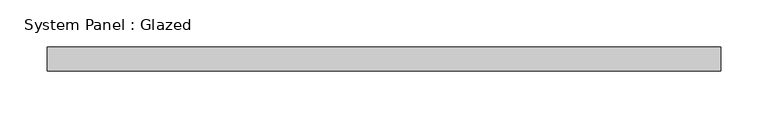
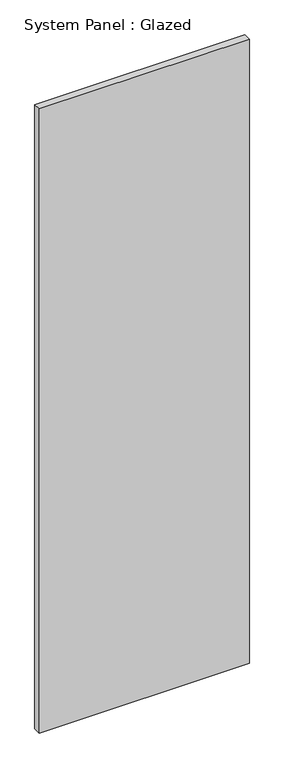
"""IFC4 building model written with IfcOpenShell, lengths in millimetres: plate geometry, System Panel : Glazed."""

import ifcopenshell
import ifcopenshell.guid

model = None  # the IFC model being written
_history = None  # IfcOwnerHistory: only IFC2X3 demands one
_inside = {}  # id of a spatial element -> (the spatial element, [elements in it])
_under = {}  # id of a project, library or spatial element -> (it, [spatial elements below it])
_declared = {}  # id of a project -> (the project, [libraries it declares])
_typed = {}  # id of a type object -> (the type object, [elements of that type])
_made_of = {}  # id of a material, layer set ... -> (it, [elements and type objects made of it])


def new_model(schema):
    """Start an empty IFC model of exactly this schema.

    Asked for "IFC4X3", IfcOpenShell would pick the latest addendum, in which some entities
    have other attributes; the version numbers below select the first issue.
    IFC2X3 requires an IfcOwnerHistory on every rooted entity: one is made here for all.
    """
    global model, _history
    if schema == "IFC4X3":
        model = ifcopenshell.file(schema_version=(4, 3, 0, 0))
    else:
        model = ifcopenshell.file(schema=schema)
    _inside.clear()
    _under.clear()
    _declared.clear()
    _typed.clear()
    _made_of.clear()
    _history = None
    if model.schema == "IFC2X3":
        org = make("IfcOrganization", Name="unknown")
        user = make(
            "IfcPersonAndOrganization",
            ThePerson=make("IfcPerson", FamilyName="unknown"),
            TheOrganization=org,
        )
        app = make(
            "IfcApplication",
            ApplicationDeveloper=org,
            Version="unknown",
            ApplicationFullName="unknown",
            ApplicationIdentifier="unknown",
        )
        _history = make(
            "IfcOwnerHistory",
            OwningUser=user,
            OwningApplication=app,
            ChangeAction="ADDED",
            CreationDate=0,
        )
    return model


def make(cls, **values):
    """One entity of the class cls with the attributes given. An attribute that is None is left unset."""
    return model.create_entity(
        cls, **{name: value for name, value in values.items() if value is not None}
    )


def rooted(cls, **values):
    """An entity with a GlobalId (a new one), such as an element, a storey or a relation."""
    return make(cls, GlobalId=ifcopenshell.guid.new(), OwnerHistory=_history, **values)


def si_unit(unit_type, name, prefix=None):
    """IfcSIUnit, for example si_unit("LENGTHUNIT", "METRE", prefix="MILLI")."""
    return make("IfcSIUnit", UnitType=unit_type, Prefix=prefix, Name=name)


def assignment(units):
    """IfcUnitAssignment: the units of a project."""
    return None if units is None else make("IfcUnitAssignment", Units=units)


def point(xyz):
    """IfcCartesianPoint."""
    return None if xyz is None else make("IfcCartesianPoint", Coordinates=xyz)


def direction(xyz):
    """IfcDirection."""
    return None if xyz is None else make("IfcDirection", DirectionRatios=xyz)


def frame(location, z_axis=None, x_axis=None):
    """IfcAxis2Placement3D, a coordinate frame: its origin and axes. An axis left out is left unset."""
    return make(
        "IfcAxis2Placement3D",
        Location=point(location),
        Axis=direction(z_axis),
        RefDirection=direction(x_axis),
    )


def origin():
    """The frame at (0, 0, 0) with its axes left unset."""
    return frame((0.0, 0.0, 0.0))


def origin_with_axes():
    """The frame at (0, 0, 0) with the z axis (0, 0, 1) and the x axis (1, 0, 0) written out."""
    return frame((0.0, 0.0, 0.0), z_axis=(0.0, 0.0, 1.0), x_axis=(1.0, 0.0, 0.0))


def place(relative_to, where):
    """IfcLocalPlacement: puts the frame where relative to a parent placement (None: the world)."""
    return make(
        "IfcLocalPlacement", PlacementRelTo=relative_to, RelativePlacement=where
    )


def context(
    kind, dimensions, precision=None, world=None, true_north=None, identifier=None
):
    """IfcGeometricRepresentationContext, for example the 3D "Model" context."""
    return make(
        "IfcGeometricRepresentationContext",
        ContextIdentifier=identifier,
        ContextType=kind,
        CoordinateSpaceDimension=dimensions,
        Precision=precision,
        WorldCoordinateSystem=world,
        TrueNorth=true_north,
    )


def project(units=None, contexts=None):
    """IfcProject with its units and contexts."""
    return rooted(
        "IfcProject",
        Name="project",
        RepresentationContexts=contexts,
        UnitsInContext=assignment(units),
    )


def spatial(cls, under=None, at=None, **own):
    """A site, building, storey or space (cls), placed at a placement, below another one or the project."""
    s = rooted(cls, ObjectPlacement=at, **own)
    if under is not None:
        _under.setdefault(under.id(), (under, []))[1].append(s)
    return s


def polyline(points):
    """IfcPolyline through the points."""
    return make("IfcPolyline", Points=[point(p) for p in points])


def outline(outer, holes=None, kind="AREA"):
    """IfcArbitraryClosedProfileDef: a profile drawn as a closed curve; with holes, ...WithVoids."""
    if holes is None:
        return make("IfcArbitraryClosedProfileDef", ProfileType=kind, OuterCurve=outer)
    return make(
        "IfcArbitraryProfileDefWithVoids",
        ProfileType=kind,
        OuterCurve=outer,
        InnerCurves=holes,
    )


def extrude(swept, where, along, depth):
    """IfcExtrudedAreaSolid: the profile swept, set in the frame where, extruded along a direction by depth."""
    return make(
        "IfcExtrudedAreaSolid",
        SweptArea=swept,
        Position=where,
        ExtrudedDirection=direction(along),
        Depth=depth,
    )


def shape(context_of_items, identifier, shape_type, items):
    """IfcShapeRepresentation: the items that make up one representation, for example the "Body"."""
    return make(
        "IfcShapeRepresentation",
        ContextOfItems=context_of_items,
        RepresentationIdentifier=identifier,
        RepresentationType=shape_type,
        Items=items,
    )


def source(mapping_origin, context_of_items, identifier, shape_type, items):
    """IfcRepresentationMap: a shape defined once, which mapped items show again and again."""
    return make(
        "IfcRepresentationMap",
        MappingOrigin=mapping_origin,
        MappedRepresentation=shape(context_of_items, identifier, shape_type, items),
    )


def transform(
    local_origin,
    x_axis=None,
    y_axis=None,
    z_axis=None,
    scale=None,
    scale2=None,
    scale3=None,
    uniform=True,
):
    """IfcCartesianTransformationOperator3D, or its non-uniform kind. x_axis, y_axis, z_axis: its Axis1, 2, 3."""
    if uniform:
        return make(
            "IfcCartesianTransformationOperator3D",
            Axis1=direction(x_axis),
            Axis2=direction(y_axis),
            LocalOrigin=point(local_origin),
            Scale=scale,
            Axis3=direction(z_axis),
        )
    return make(
        "IfcCartesianTransformationOperator3DnonUniform",
        Axis1=direction(x_axis),
        Axis2=direction(y_axis),
        LocalOrigin=point(local_origin),
        Scale=scale,
        Axis3=direction(z_axis),
        Scale2=scale2,
        Scale3=scale3,
    )


def mapped(mapping_source, mapping_target):
    """IfcMappedItem: shows the shape of a source again, moved by a transform."""
    return make(
        "IfcMappedItem", MappingSource=mapping_source, MappingTarget=mapping_target
    )


def made_of(thing, what):
    """Note that an element or type object is made of a material, layer set ...; save() writes the relation."""
    if what is not None:
        _made_of.setdefault(what.id(), (what, []))[1].append(thing)
    return thing


def element(
    cls,
    number,
    at=None,
    inside=None,
    cuts=None,
    type_object=None,
    material=None,
    context=None,
    identifier="Body",
    shape_type=None,
    held_by="IfcProductDefinitionShape",
    body=None,
    shapes=None,
    **own,
):
    """One element of the class cls, such as IfcWall. Its Tag is "e" and its number.

    at: its placement. inside: the storey or other place that contains it. cuts: it is an
    opening in that element (IfcRelVoidsElement). A single representation is given by context,
    identifier, shape_type and body (its items); several are given by shapes. held_by: the class
    of the entity that holds the representations. save() writes the other relations.
    """
    e = rooted(cls, Tag="e%d" % number, ObjectPlacement=at, **own)
    if body is not None:
        shapes = [shape(context, identifier, shape_type, body)]
    if shapes is not None:
        e.Representation = make(held_by, Representations=shapes)
    if inside is not None:
        _inside.setdefault(inside.id(), (inside, []))[1].append(e)
    if cuts is not None:
        rooted(
            "IfcRelVoidsElement", RelatingBuildingElement=cuts, RelatedOpeningElement=e
        )
    if type_object is not None:
        _typed.setdefault(type_object.id(), (type_object, []))[1].append(e)
    return made_of(e, material)


def aggregate(whole, parts):
    """IfcRelAggregates: a whole, such as a stair, and the parts it consists of."""
    return rooted("IfcRelAggregates", RelatingObject=whole, RelatedObjects=parts)


def save(model, path):
    """Write the relations noted so far, then the file.

    IfcRelAggregates (storeys below a building ...), IfcRelContainedInSpatialStructure (elements
    in a storey), IfcRelDefinesByType, IfcRelAssociatesMaterial and IfcRelDeclares: one each for
    every whole, place, type object, material and project.
    """
    for whole, parts in _under.values():
        aggregate(whole, parts)
    for where, things in _inside.values():
        rooted(
            "IfcRelContainedInSpatialStructure",
            RelatedElements=things,
            RelatingStructure=where,
        )
    for kind, things in _typed.values():
        rooted("IfcRelDefinesByType", RelatedObjects=things, RelatingType=kind)
    for what, things in _made_of.values():
        rooted("IfcRelAssociatesMaterial", RelatedObjects=things, RelatingMaterial=what)
    for by, libraries in _declared.values():
        rooted("IfcRelDeclares", RelatingContext=by, RelatedDefinitions=libraries)
    model.write(path)


def system_panel_glazed_1f9666d3(model_context):
    return source(origin(), model_context, "Body", "SweptSolid", [
        extrude(outline(polyline([(354.5833334, 24.5), (-354.5833334, 24.5), (-354.5833334, 49.5), (354.5833334, 49.5), (354.5833334, 24.5)])), origin_with_axes(), (0.0, 0.0, 1.0), 2225.0),
    ])


if __name__ == "__main__":
    model = new_model("IFC4")
    model_context = context("Model", 3, world=origin())
    ifc_project = project(units=[si_unit("LENGTHUNIT", "METRE", prefix="MILLI")], contexts=[model_context])
    site = spatial("IfcSite", under=ifc_project)
    building = spatial("IfcBuilding", under=site)
    placement = place(None, origin())
    system_panel_glazed_shape = system_panel_glazed_1f9666d3(model_context)
    element("IfcPlate", 1, ObjectType="System Panel : Glazed", at=placement, inside=building, context=model_context, shape_type="MappedRepresentation", body=[
        mapped(system_panel_glazed_shape, transform((0.0, 0.0, 0.0), x_axis=(1.0, 0.0, 0.0), y_axis=(0.0, 1.0, 0.0), z_axis=(0.0, 0.0, 1.0))),
    ])
    save(model, "model.ifc")
